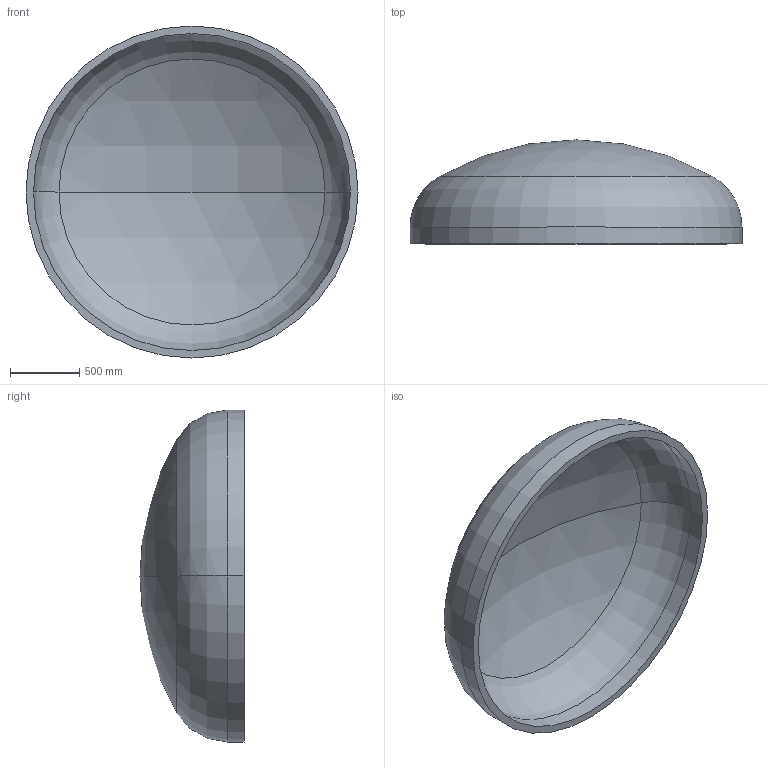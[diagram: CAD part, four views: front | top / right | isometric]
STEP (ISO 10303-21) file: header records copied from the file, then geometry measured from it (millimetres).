
FILE_DESCRIPTION (( 'STEP AP203' ), '1' );
FILE_NAME ('DIN 28013 Korbbogenform_-_Boden DIN 28013 - 2400 x 120 - I - s=54.step', '2016-07-01T15:27:50', ( '' ), ( '' ), 'SwSTEP 2.0', 'SolidWorks 2013', '' );
FILE_SCHEMA (( 'CONFIG_CONTROL_DESIGN' ));
Length unit declared in the file: millimetre
Products named in the file (1): DIN 28013 Korbbogenform_-_Boden DIN 28013 - 2400 x 120 - I - s=54
Bounding box: 2400 x 752.24 x 2400 mm (x, y, z)
Volume: 376310531.7 mm3; surface area: 14341519.4 mm2
Topology: 1 solids, 1 shells, 13 faces, 24 edges, 14 vertices
Faces by surface type: torus 4, cylinder 4, sphere 4, plane 1
Entity records: 407 total; most frequent: DIRECTION 72, CARTESIAN_POINT 52, ORIENTED_EDGE 48, AXIS2_PLACEMENT_3D 34, EDGE_CURVE 24, CIRCLE 20, EDGE_LOOP 14, VERTEX_POINT 14
